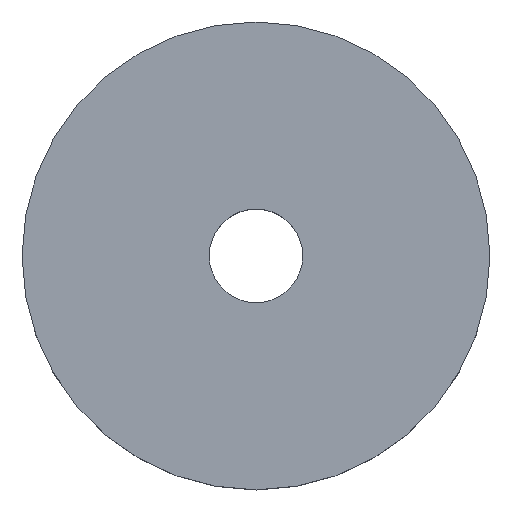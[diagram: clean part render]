
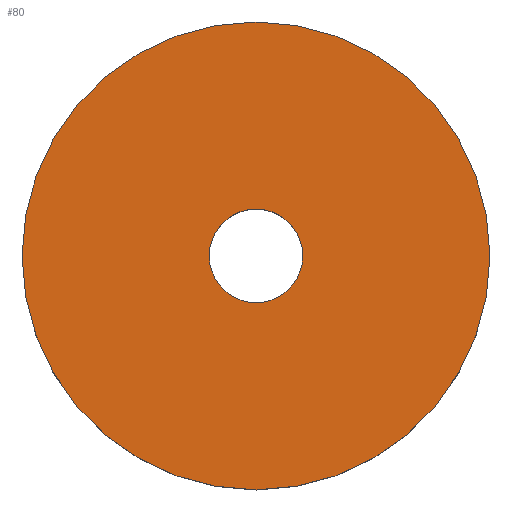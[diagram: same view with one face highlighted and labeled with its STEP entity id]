
A CAD part, top view. The second image highlights one B-rep face of the part: STEP entity #80.
In plain terms, the highlighted planar face has unit normal (0, 0, 1).
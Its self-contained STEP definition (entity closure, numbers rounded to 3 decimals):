
#80=ADVANCED_FACE('',(#93,#94),#95,.T.);
#93=FACE_BOUND('',#107,.T.);
#94=FACE_OUTER_BOUND('',#108,.T.);
#95=PLANE('',#109);
#107=EDGE_LOOP('',(#145,#146));
#108=EDGE_LOOP('',(#147,#148));
#109=AXIS2_PLACEMENT_3D('',#149,#150,#151);
#145=ORIENTED_EDGE('',*,*,#161,.T.);
#146=ORIENTED_EDGE('',*,*,#157,.T.);
#147=ORIENTED_EDGE('',*,*,#155,.T.);
#148=ORIENTED_EDGE('',*,*,#162,.T.);
#149=CARTESIAN_POINT('',(0.0,0.0,3.0));
#150=DIRECTION('',(0.0,0.0,1.0));
#151=DIRECTION('',(1.0,0.0,0.0));
#155=EDGE_CURVE('',#165,#169,#171,.T.);
#157=EDGE_CURVE('',#175,#172,#176,.T.);
#161=EDGE_CURVE('',#172,#175,#181,.T.);
#162=EDGE_CURVE('',#169,#165,#182,.T.);
#165=VERTEX_POINT('',#185);
#169=VERTEX_POINT('',#190);
#171=CIRCLE('',#193,7.5);
#172=VERTEX_POINT('',#194);
#175=VERTEX_POINT('',#198);
#176=CIRCLE('',#199,1.5);
#181=CIRCLE('',#205,1.5);
#182=CIRCLE('',#206,7.5);
#185=CARTESIAN_POINT('',(7.5,0.0,3.0));
#190=CARTESIAN_POINT('',(-7.5,0.,3.0));
#193=AXIS2_PLACEMENT_3D('',#213,#214,#215);
#194=CARTESIAN_POINT('',(1.5,0.0,3.0));
#198=CARTESIAN_POINT('',(-1.5,0.,3.0));
#199=AXIS2_PLACEMENT_3D('',#217,#218,#219);
#205=AXIS2_PLACEMENT_3D('',#227,#228,#229);
#206=AXIS2_PLACEMENT_3D('',#230,#231,#232);
#213=CARTESIAN_POINT('',(0.0,0.0,3.0));
#214=DIRECTION('',(0.0,0.0,1.0));
#215=DIRECTION('',(1.0,0.0,0.0));
#217=CARTESIAN_POINT('',(0.0,0.0,3.0));
#218=DIRECTION('',(0.0,0.0,-1.0));
#219=DIRECTION('',(1.0,0.0,0.0));
#227=CARTESIAN_POINT('',(0.0,0.0,3.0));
#228=DIRECTION('',(0.0,0.0,-1.0));
#229=DIRECTION('',(1.0,0.0,0.0));
#230=CARTESIAN_POINT('',(0.0,0.0,3.0));
#231=DIRECTION('',(0.0,0.0,1.0));
#232=DIRECTION('',(1.0,0.0,0.0));
